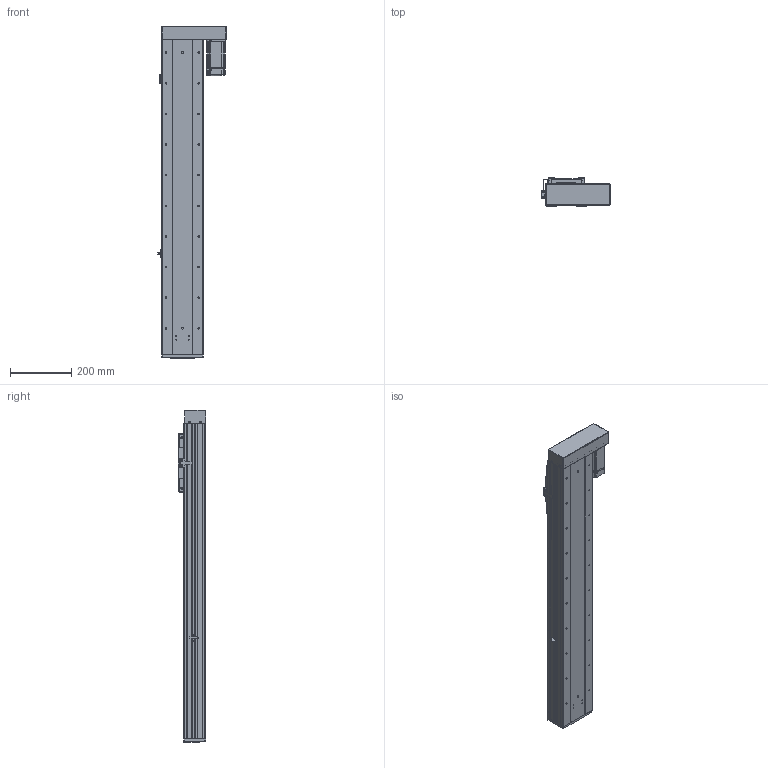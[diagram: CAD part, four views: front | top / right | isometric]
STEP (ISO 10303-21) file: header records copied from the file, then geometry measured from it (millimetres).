
FILE_DESCRIPTION (( 'STEP AP203' ), '1' );
FILE_NAME ('RY140F-L2020-300-RK.SLDASM_750.step', '2021-03-02T08:50:33', ( '盈信电脑' ), ( '东莞市道滘镇水果街19号' ), 'SwSTEP 2.0', 'SolidWorks 2012', '' );
FILE_SCHEMA (( 'CONFIG_CONTROL_DESIGN' ));
Length unit declared in the file: millimetre
Products named in the file (19): RY140F-酘衵殏萇儂欶(400W); RY140F-左右折电机安装板(400W M5); RY140F-L2020-300-RK.SLDASM_750; 侐源滅袉蝶; RY140F-转折折电机座（7001）; RY140F-672覜茼んえ; RY140F-詩湍揤え; 15; RY140F-后盖板(铝件）; 侂狟400W侜督萇儂; 覜茼ん672; RY140F-詩湍幗謫粣; RY140F-直连型材铝滑块(16丝杆); RY100F-詩湍揤踡謫; RY140F-直连型材铝滑块连接座; RY140F-滅鳥奻裔; RY140F-300-RK倰第奻裔啣_750; RY140F-300-RK蛌殏詩湍_750; RY140F-300-RK倰第菁釱_750
Assembly tree (23 placements, depth 3):
  RY140F-L2020-300-RK.SLDASM_750
    RY140F-300-RK倰第菁釱_750
    RY140F-300-RK倰第奻裔啣_750  x2
    RY140F-300-RK蛌殏詩湍_750
    RY140F-直连型材铝滑块连接座
    RY140F-滅鳥奻裔
    RY140F-詩湍幗謫粣
    RY100F-詩湍揤踡謫
    RY140F-直连型材铝滑块(16丝杆)
    RY140F-后盖板(铝件）
    侂狟400W侜督萇儂
      15
    覜茼ん672
    RY140F-672覜茼んえ
    RY140F-詩湍揤え  x2
    侐源滅袉蝶  x4
    RY140F-转折折电机座（7001）
    RY140F-左右折电机安装板(400W M5)
    RY140F-酘衵殏萇儂欶(400W)
Bounding box: 224.7 x 91 x 1084 mm (x, y, z)
Volume: 4238200.3 mm3; surface area: 1512213 mm2
Topology: 22 solids, 22 shells, 2053 faces, 5597 edges, 3546 vertices
Faces by surface type: cylinder 1000, plane 789, cone 234, bspline 26, torus 4
Entity records: 64747 total; most frequent: CARTESIAN_POINT 13667, DIRECTION 10390, ORIENTED_EDGE 10066, EDGE_CURVE 5033, AXIS2_PLACEMENT_3D 3733, VERTEX_POINT 3286, VECTOR 2924, LINE 2924
